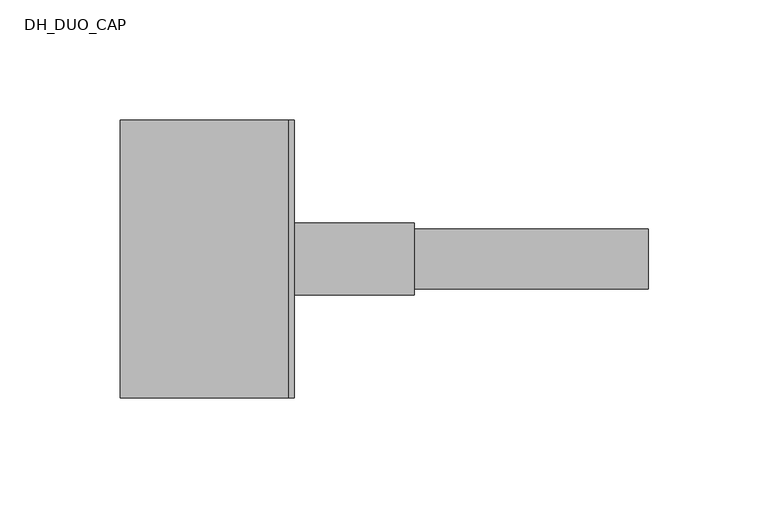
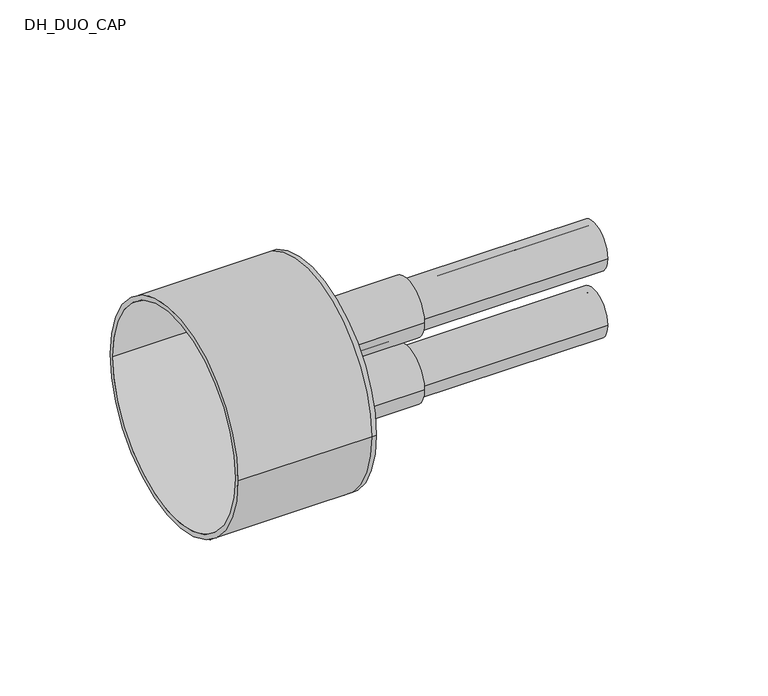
"""IFC4 building model written with IfcOpenShell, lengths in millimetres: pipe fitting geometry, DH_DUO_CAP : RAUTHERMEX DUO + 7.4 Heating - Rubber Cap."""

from ifc_helpers import new_model, si_unit, point, frame, frame_2d, origin, place, context, project, spatial, polyline, circle_curve, trimmed, segment, composite_curve, outline, extrude, source, transform, mapped, element, save
from ifc_brep_helpers import plane_surface, cylinder_surface, revolved_surface, advanced_brep


def dh_duo_cap_a61b90cc(model_context):
    return source(origin(), model_context, "Body", "SolidModel", [
        extrude(outline(composite_curve([segment(trimmed(circle_curve(frame_2d((0.0, -18.5)), 12.5), [point((-12.5, -18.5))], [point((12.5, -18.5))], False, "CARTESIAN"), True, "CONTINUOUS"), segment(trimmed(circle_curve(frame_2d((0.0, -18.5)), 12.5), [point((12.5, -18.5))], [point((-12.5, -18.5))], False, "CARTESIAN"), True, "CONTINUOUS")], self_intersect=False), holes=[composite_curve([segment(trimmed(circle_curve(frame_2d((0.0, -18.5)), 9.0), [point((-9.0, -18.5))], [point((9.0, -18.5))], True, "CARTESIAN"), True, "CONTINUOUS"), segment(trimmed(circle_curve(frame_2d((0.0, -18.5)), 9.0), [point((9.0, -18.5))], [point((-9.0, -18.5))], True, "CARTESIAN"), True, "CONTINUOUS")], self_intersect=False)]), frame((0.0, 0.0, 0.0), z_axis=(1.0, 0.0, 0.0), x_axis=(0.0, 1.0, 0.0)), (0.0, 0.0, 1.0), 150.0),
        extrude(outline(composite_curve([segment(trimmed(circle_curve(frame_2d((0.0, 18.5)), 12.5), [point((-12.5, 18.5))], [point((12.5, 18.5))], False, "CARTESIAN"), True, "CONTINUOUS"), segment(trimmed(circle_curve(frame_2d((0.0, 18.5)), 12.5), [point((12.5, 18.5))], [point((-12.5, 18.5))], False, "CARTESIAN"), True, "CONTINUOUS")], self_intersect=False), holes=[composite_curve([segment(trimmed(circle_curve(frame_2d((0.0, 18.5)), 9.0), [point((-9.0, 18.5))], [point((9.0, 18.5))], True, "CARTESIAN"), True, "CONTINUOUS"), segment(trimmed(circle_curve(frame_2d((0.0, 18.5)), 9.0), [point((9.0, 18.5))], [point((-9.0, 18.5))], True, "CARTESIAN"), True, "CONTINUOUS")], self_intersect=False)]), frame((0.0, 0.0, 0.0), z_axis=(1.0, 0.0, 0.0), x_axis=(0.0, 1.0, 0.0)), (0.0, 0.0, 1.0), 150.0),
        advanced_brep(
        [(-70.0, -58.0, 0.0), (-70.0, 58.0, 0.0), (-70.0, -55.5, 0.0), (-70.0, 55.5, 0.0), (0.0, -55.5, 0.0), (0.0, 55.5, 0.0), (0.0, -58.0, 0.0), (0.0, 58.0, 0.0), (0.0, 12.5, 18.5), (0.0, -12.5, 18.5), (0.0, 12.5, -18.5), (0.0, -12.5, -18.5), (2.5, -58.0, 0.0), (2.5, 58.0, 0.0), (2.5, -12.5, 18.5), (2.5, 12.5, 18.5), (2.5, -12.5, -18.5), (2.5, 12.5, -18.5)],
        [
            (0, 1, circle_curve(frame((-70.0, 0.0, 0.0), z_axis=(-1.0, 0.0, 0.0), x_axis=(0.0, 1.0, 0.0)), 58.0)),
            (1, 0, circle_curve(frame((-70.0, 0.0, 0.0), z_axis=(-1.0, 0.0, 0.0), x_axis=(0.0, 1.0, 0.0)), 58.0)),
            (2, 3, circle_curve(frame((-70.0, 0.0, 0.0), z_axis=(1.0, 0.0, 0.0), x_axis=(0.0, 1.0, 0.0)), 55.5)),
            (3, 2, circle_curve(frame((-70.0, 0.0, 0.0), z_axis=(1.0, 0.0, 0.0), x_axis=(0.0, 1.0, 0.0)), 55.5)),
            (2, 4),
            (4, 5, circle_curve(frame((0.0, 0.0, 0.0), z_axis=(1.0, 0.0, 0.0), x_axis=(0.0, 1.0, 0.0)), 55.5)),
            (5, 3),
            (5, 4, circle_curve(frame((0.0, 0.0, 0.0), z_axis=(1.0, 0.0, 0.0), x_axis=(0.0, 1.0, 0.0)), 55.5)),
            (0, 6),
            (6, 7, circle_curve(frame((0.0, 0.0, 0.0), z_axis=(-1.0, 0.0, 0.0), x_axis=(0.0, 1.0, 0.0)), 58.0)),
            (7, 1),
            (7, 6, circle_curve(frame((0.0, 0.0, 0.0), z_axis=(-1.0, 0.0, 0.0), x_axis=(0.0, 1.0, 0.0)), 58.0)),
            (8, 9, circle_curve(frame((0.0, 0.0, 18.5), z_axis=(1.0, 0.0, 0.0), x_axis=(0.0, 1.0, 0.0)), 12.5)),
            (9, 8, circle_curve(frame((0.0, 0.0, 18.5), z_axis=(1.0, 0.0, 0.0), x_axis=(0.0, 1.0, 0.0)), 12.5)),
            (10, 11, circle_curve(frame((0.0, 0.0, -18.5), z_axis=(1.0, 0.0, 0.0), x_axis=(0.0, 1.0, 0.0)), 12.5)),
            (11, 10, circle_curve(frame((0.0, 0.0, -18.5), z_axis=(1.0, 0.0, 0.0), x_axis=(0.0, 1.0, 0.0)), 12.5)),
            (12, 13, circle_curve(frame((2.5, 0.0, 0.0), z_axis=(1.0, 0.0, 0.0), x_axis=(0.0, 1.0, 0.0)), 58.0)),
            (13, 12, circle_curve(frame((2.5, 0.0, 0.0), z_axis=(1.0, 0.0, 0.0), x_axis=(0.0, 1.0, 0.0)), 58.0)),
            (14, 15, circle_curve(frame((2.5, 0.0, 18.5), z_axis=(-1.0, 0.0, 0.0), x_axis=(0.0, 1.0, 0.0)), 12.5)),
            (15, 14, circle_curve(frame((2.5, 0.0, 18.5), z_axis=(-1.0, 0.0, 0.0), x_axis=(0.0, 1.0, 0.0)), 12.5)),
            (16, 17, circle_curve(frame((2.5, 0.0, -18.5), z_axis=(-1.0, 0.0, 0.0), x_axis=(0.0, 1.0, 0.0)), 12.5)),
            (17, 16, circle_curve(frame((2.5, 0.0, -18.5), z_axis=(-1.0, 0.0, 0.0), x_axis=(0.0, 1.0, 0.0)), 12.5)),
            (13, 7),
            (6, 12),
            (8, 15),
            (14, 9),
            (10, 17),
            (16, 11),
        ],
        [
            plane_surface(frame((-70.0, 0.0, 0.0), z_axis=(-1.0, 0.0, 0.0), x_axis=(0.0, 0.0, 1.0))),
            revolved_surface(polyline([(0.0, 55.5, 0.0), (-70.0, 55.5, 0.0)]), (-70.0, 0.0, 0.0), (1.0, 0.0, 0.0)),
            cylinder_surface(frame((-70.0, 0.0, 0.0), z_axis=(-1.0, 0.0, 0.0), x_axis=(0.0, 1.0, 0.0)), 58.0),
            plane_surface(frame((0.0, 0.0, 0.0), z_axis=(-1.0, 0.0, 0.0), x_axis=(0.0, 0.0, 1.0))),
            plane_surface(frame((2.5, 0.0, 0.0), z_axis=(1.0, 0.0, 0.0), x_axis=(0.0, 0.0, 1.0))),
            cylinder_surface(frame((0.0, 0.0, 0.0), z_axis=(-1.0, 0.0, 0.0), x_axis=(0.0, 1.0, 0.0)), 58.0),
            revolved_surface(polyline([(0.0, 12.5, 18.5), (2.5, 12.5, 18.5)]), (0.0, 0.0, 18.5), (-1.0, 0.0, 0.0)),
            revolved_surface(polyline([(0.0, 12.5, -18.5), (2.5, 12.5, -18.5)]), (0.0, 0.0, -18.5), (-1.0, 0.0, 0.0)),
        ],
        [
            (0, [[1, 2], [3, 4]]),
            (1, [[-3, 5, 6, 7]]),
            (1, [[-4, -7, 8, -5]]),
            (2, [[-1, 9, 10, 11]]),
            (2, [[-2, -11, 12, -9]]),
            (3, [[-6, -8], [13, 14], [15, 16]]),
            (4, [[17, 18], [19, 20], [21, 22]]),
            (5, [[-18, 23, -10, 24]]),
            (5, [[-17, -24, -12, -23]]),
            (6, [[25, -19, 26, -13]]),
            (6, [[-25, -14, -26, -20]]),
            (7, [[27, -21, 28, -15]]),
            (7, [[-27, -16, -28, -22]]),
        ],
    ),
        extrude(outline(composite_curve([segment(trimmed(circle_curve(frame_2d((0.0, -18.5)), 15.0), [point((-15.0, -18.5))], [point((15.0, -18.5))], False, "CARTESIAN"), True, "CONTINUOUS"), segment(trimmed(circle_curve(frame_2d((0.0, -18.5)), 15.0), [point((15.0, -18.5))], [point((-15.0, -18.5))], False, "CARTESIAN"), True, "CONTINUOUS")], self_intersect=False), holes=[composite_curve([segment(trimmed(circle_curve(frame_2d((0.0, -18.5)), 12.5), [point((-12.5, -18.5))], [point((12.5, -18.5))], True, "CARTESIAN"), True, "CONTINUOUS"), segment(trimmed(circle_curve(frame_2d((0.0, -18.5)), 12.5), [point((12.5, -18.5))], [point((-12.5, -18.5))], True, "CARTESIAN"), True, "CONTINUOUS")], self_intersect=False)]), frame((2.5, 0.0, 0.0), z_axis=(1.0, 0.0, 0.0), x_axis=(0.0, 1.0, 0.0)), (0.0, 0.0, 1.0), 50.0),
        extrude(outline(composite_curve([segment(trimmed(circle_curve(frame_2d((0.0, 18.5)), 15.0), [point((-15.0, 18.5))], [point((15.0, 18.5))], False, "CARTESIAN"), True, "CONTINUOUS"), segment(trimmed(circle_curve(frame_2d((0.0, 18.5)), 15.0), [point((15.0, 18.5))], [point((-15.0, 18.5))], False, "CARTESIAN"), True, "CONTINUOUS")], self_intersect=False), holes=[composite_curve([segment(trimmed(circle_curve(frame_2d((0.0, 18.5)), 12.5), [point((-12.5, 18.5))], [point((12.5, 18.5))], True, "CARTESIAN"), True, "CONTINUOUS"), segment(trimmed(circle_curve(frame_2d((0.0, 18.5)), 12.5), [point((12.5, 18.5))], [point((-12.5, 18.5))], True, "CARTESIAN"), True, "CONTINUOUS")], self_intersect=False)]), frame((2.5, 0.0, 0.0), z_axis=(1.0, 0.0, 0.0), x_axis=(0.0, 1.0, 0.0)), (0.0, 0.0, 1.0), 50.0),
    ])


if __name__ == "__main__":
    model = new_model("IFC4")
    model_context = context("Model", 3, world=origin())
    ifc_project = project(units=[si_unit("LENGTHUNIT", "METRE", prefix="MILLI")], contexts=[model_context])
    site = spatial("IfcSite", under=ifc_project)
    building = spatial("IfcBuilding", under=site)
    placement = place(None, origin())
    dh_duo_cap_shape = dh_duo_cap_a61b90cc(model_context)
    element("IfcPipeFitting", 1, ObjectType="DH_DUO_CAP : RAUTHERMEX DUO + 7.4 Heating - Rubber Cap", at=placement, inside=building, context=model_context, shape_type="MappedRepresentation", body=[
        mapped(dh_duo_cap_shape, transform((0.0, 0.0, 0.0), x_axis=(1.0, 0.0, 0.0), y_axis=(0.0, 1.0, 0.0), z_axis=(0.0, 0.0, 1.0))),
    ])
    save(model, "model.ifc")
